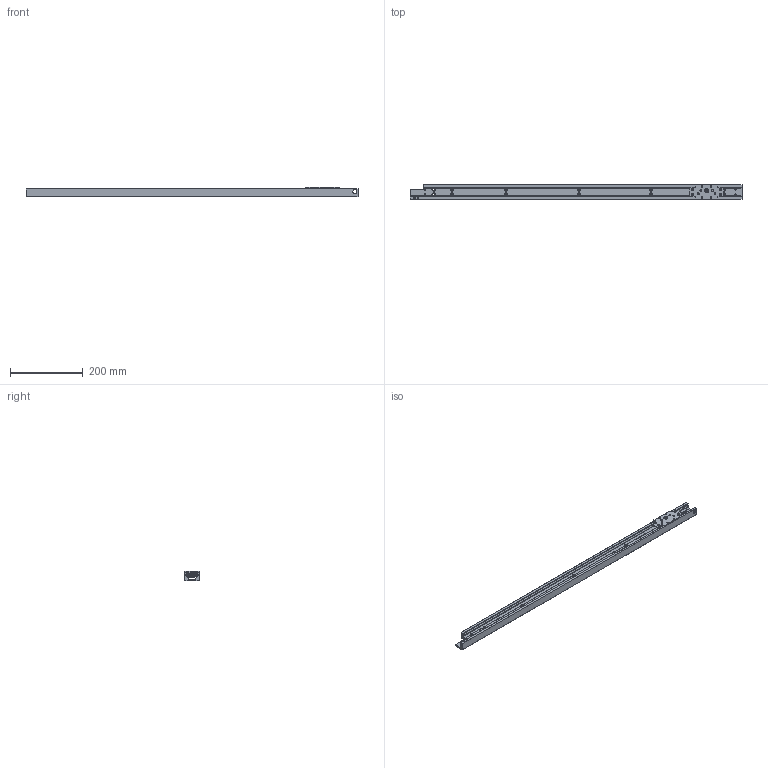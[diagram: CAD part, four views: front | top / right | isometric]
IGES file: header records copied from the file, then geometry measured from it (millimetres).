
Global section: file name:  ; native system: Kubotek KeyCreator; preprocessor: KCM Version 1.1.28; author: KeyCreator•p{ž; organization: Self; date: 20161201.000328; units: millimetre
Bounding box: 915 x 40 x 25.03 mm (x, y, z)
Surface area: 192223.6 mm2 (no closed solid volume)
Topology: 0 solids, 0 shells, 451 faces, 3325 edges, 3325 vertices
Faces by surface type: bspline 451
